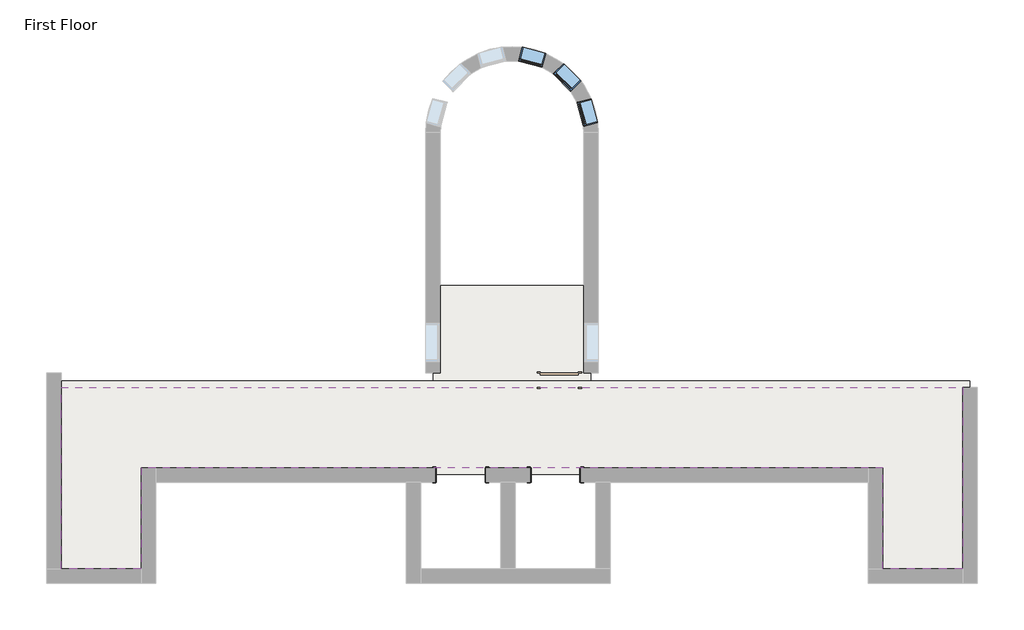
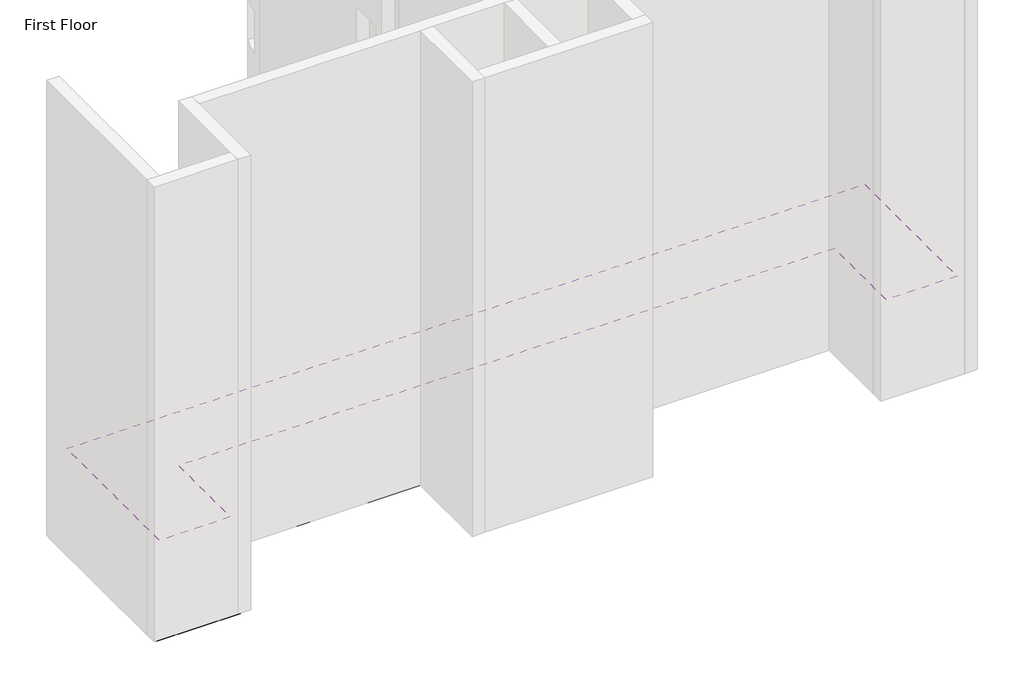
# One storey, part 3 of 3: 3 windows, 2 proxies, 2 slabs, 1 covering.
"""IFC4 building model written with IfcOpenShell, lengths in millimetres."""

from ifc_helpers import new_model, si_unit, frame, origin, place, context, project, spatial, polyline, outline, extrude, transform, mapped, element, save
from components import m_passage_opening_cased_1220_x_2134mm_f04423fa, m_fixed_0610_x_1220mm_1ea27827

model = new_model("IFC4")

# Units and contexts
model_context = context("Model", 3, world=origin())
ifc_project = project(units=[si_unit("LENGTHUNIT", "METRE", prefix="MILLI")], contexts=[model_context])

# Site, building, storey
site = spatial("IfcSite", under=ifc_project)
building = spatial("IfcBuilding", under=site)
storey = spatial("IfcBuildingStorey", under=building, Name="First Floor", Elevation=0.0)

# Proxies
placement = place(None, origin())
m_passage_opening_cased_1220_x_2134mm_shape = m_passage_opening_cased_1220_x_2134mm_f04423fa(model_context)
element("IfcBuildingElementProxy", 1, Name="M_Passage Opening-Cased : 1220 x 2134mm", ObjectType="M_Passage Opening-Cased : 1220 x 2134mm", at=placement, inside=storey, context=model_context, shape_type="MappedRepresentation", body=[
    mapped(m_passage_opening_cased_1220_x_2134mm_shape, transform((3529.9038, -3050.7443399, 0.0), x_axis=(-1.0, 0.0, 0.0), y_axis=(0.0, -1.0, 0.0), z_axis=(0.0, 0.0, 1.0))),
])
element("IfcBuildingElementProxy", 2, Name="M_Passage Opening-Cased : 1220 x 2134mm", ObjectType="M_Passage Opening-Cased : 1220 x 2134mm", at=placement, inside=storey, context=model_context, shape_type="MappedRepresentation", body=[
    mapped(m_passage_opening_cased_1220_x_2134mm_shape, transform((1260.2811134, -3050.7443399, 0.0), x_axis=(1.0, 0.0, 0.0), y_axis=(0.0, 1.0, 0.0), z_axis=(0.0, 0.0, 1.0))),
])

# Covering
element("IfcCovering", 3, ObjectType="Plain", at=placement, inside=storey, context=model_context, shape_type="SweptSolid", body=[
    extrude(outline(polyline([(-6448.9075433, -2875.7443399), (-6448.9075433, -5314.1443399), (-8384.9075433, -5314.1443399), (-8384.9075433, -939.7443399), (13363.0924567, -939.7443399), (13363.0924567, -5314.1443399), (11427.0924567, -5314.1443399), (11427.0924567, -2875.7443399), (-6448.9075433, -2875.7443399)])), frame((0.0, 0.0, 2591.0), z_axis=(0.0, 0.0, 1.0), x_axis=(1.0, 0.0, 0.0)), (0.0, 0.0, 1.0), 57.0),
])

# Slabs
element("IfcSlab", 4, ObjectType="Generic 150mm", at=placement, inside=storey, context=model_context, shape_type="SweptSolid", body=[
    extrude(outline(polyline([(13528.0924567, -774.7443399), (13528.0924567, -5479.1443399), (11262.0924567, -5479.1443399), (11262.0924567, -3040.7443399), (-6283.9075433, -3040.7443399), (-6283.9075433, -5479.1443399), (-8549.9075433, -5479.1443399), (-8549.9075433, -774.7443399), (13528.0924567, -774.7443399)])), frame((0.0, 0.0, -150.0), z_axis=(0.0, 0.0, 1.0), x_axis=(1.0, 0.0, 0.0)), (0.0, 0.0, 1.0), 150.0),
])
element("IfcSlab", 5, ObjectType="Generic 150mm", at=placement, inside=storey, context=model_context, shape_type="SweptSolid", body=[
    extrude(outline(polyline([(4394.0924567, -764.7443399), (584.0924567, -764.7443399), (584.0924567, 1521.2556601), (4394.0924567, 1521.2556601), (4394.0924567, -764.7443399)])), frame((0.0, 0.0, -150.0), z_axis=(0.0, 0.0, 1.0), x_axis=(1.0, 0.0, 0.0)), (0.0, 0.0, 1.0), 150.0),
])

# Windows
m_fixed_0610_x_1220mm_shape = m_fixed_0610_x_1220mm_1ea27827(model_context)
element("IfcWindow", 6, ObjectType="M_Fixed : 0610 x 1220mm", at=placement, inside=storey, context=model_context, shape_type="MappedRepresentation", body=[
    mapped(m_fixed_0610_x_1220mm_shape, transform((4320.0209983, 5700.8514842, 0.0), x_axis=(0.2588190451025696, -0.9659258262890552, 0.0), y_axis=(0.9659258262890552, 0.2588190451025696, 0.0), z_axis=(0.0, 0.0, 1.0))),
])
element("IfcWindow", 7, ObjectType="M_Fixed : 0610 x 1220mm", at=placement, inside=storey, context=model_context, shape_type="MappedRepresentation", body=[
    mapped(m_fixed_0610_x_1220mm_shape, transform((2979.6882808, 7041.1842016, 0.0), x_axis=(0.965925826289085, -0.2588190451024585, 0.0), y_axis=(0.2588190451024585, 0.965925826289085, 0.0), z_axis=(0.0, 0.0, 1.0))),
])
element("IfcWindow", 8, ObjectType="M_Fixed : 0610 x 1220mm", at=placement, inside=storey, context=model_context, shape_type="MappedRepresentation", body=[
    mapped(m_fixed_0610_x_1220mm_shape, transform((3829.4251742, 6550.5883775, 0.0), x_axis=(0.7071067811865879, -0.7071067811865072, 0.0), y_axis=(0.7071067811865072, 0.7071067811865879, 0.0), z_axis=(0.0, 0.0, 1.0))),
])

save(model, "model.ifc")
